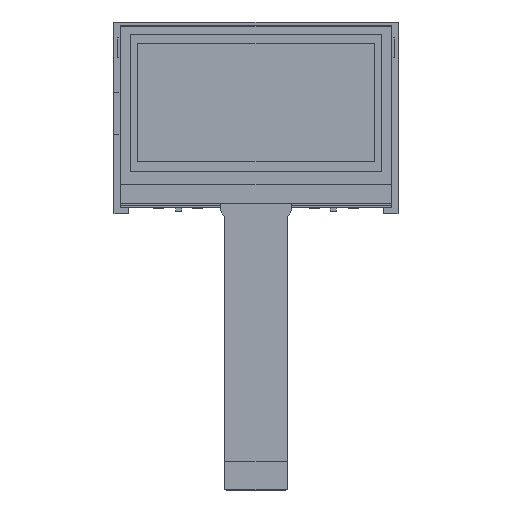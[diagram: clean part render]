
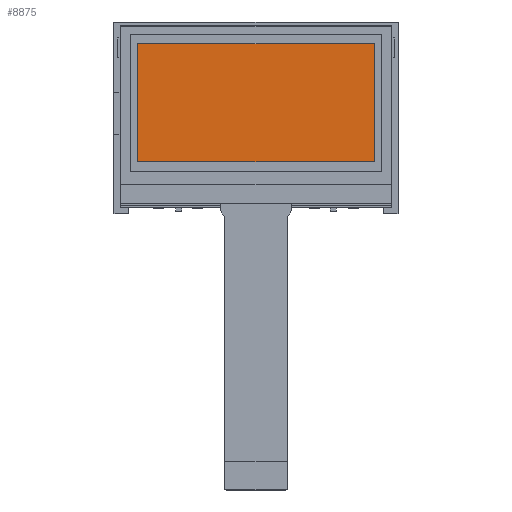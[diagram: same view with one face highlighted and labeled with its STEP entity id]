
A CAD part, top view. The second image highlights one B-rep face of the part: STEP entity #8875.
In plain terms, the highlighted planar face has unit normal (0, 0, 1).
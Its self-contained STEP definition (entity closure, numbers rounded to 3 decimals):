
#505 = CARTESIAN_POINT ( 'NONE',  ( 0., -12.42, 6.5 ) ) ;
#878 = LINE ( 'NONE', #12382, #7632 ) ;
#1144 = DIRECTION ( 'NONE',  ( 0., 1., 0. ) ) ;
#1165 = EDGE_CURVE ( 'NONE', #9413, #5884, #10555, .T. ) ;
#1262 = LINE ( 'NONE', #505, #6985 ) ;
#1661 = ORIENTED_EDGE ( 'NONE', *, *, #1165, .F. ) ;
#1705 = DIRECTION ( 'NONE',  ( 1., 0., 0. ) ) ;
#2548 = ORIENTED_EDGE ( 'NONE', *, *, #9334, .F. ) ;
#2642 = CARTESIAN_POINT ( 'NONE',  ( 33.26, -12.42, 6.5 ) ) ;
#3425 = ORIENTED_EDGE ( 'NONE', *, *, #8743, .F. ) ;
#3509 = ORIENTED_EDGE ( 'NONE', *, *, #10779, .F. ) ;
#4343 = LINE ( 'NONE', #10906, #7599 ) ;
#5344 = CARTESIAN_POINT ( 'NONE',  ( 33.26, 20.82, 6.5 ) ) ;
#5527 = CARTESIAN_POINT ( 'NONE',  ( -33.26, -12.42, 6.5 ) ) ;
#5884 = VERTEX_POINT ( 'NONE', #7999 ) ;
#6567 = AXIS2_PLACEMENT_3D ( 'NONE', #10472, #11236, #1705 ) ;
#6635 = PLANE ( 'NONE',  #6567 ) ;
#6754 = VERTEX_POINT ( 'NONE', #5344 ) ;
#6985 = VECTOR ( 'NONE', #7220, 1000. ) ;
#7220 = DIRECTION ( 'NONE',  ( -1., 0., 0. ) ) ;
#7464 = FACE_OUTER_BOUND ( 'NONE', #9664, .T. ) ;
#7599 = VECTOR ( 'NONE', #9130, 1000. ) ;
#7632 = VECTOR ( 'NONE', #12326, 1000. ) ;
#7999 = CARTESIAN_POINT ( 'NONE',  ( -33.26, 20.82, 6.5 ) ) ;
#8743 = EDGE_CURVE ( 'NONE', #9194, #9413, #1262, .T. ) ;
#8875 = ADVANCED_FACE ( 'NONE', ( #7464 ), #6635, .T. ) ;
#9130 = DIRECTION ( 'NONE',  ( 1., 0., 0. ) ) ;
#9194 = VERTEX_POINT ( 'NONE', #2642 ) ;
#9334 = EDGE_CURVE ( 'NONE', #5884, #6754, #4343, .T. ) ;
#9413 = VERTEX_POINT ( 'NONE', #5527 ) ;
#9595 = CARTESIAN_POINT ( 'NONE',  ( -33.26, 0., 6.5 ) ) ;
#9664 = EDGE_LOOP ( 'NONE', ( #1661, #3425, #3509, #2548 ) ) ;
#10472 = CARTESIAN_POINT ( 'NONE',  ( 0., 0., 6.5 ) ) ;
#10555 = LINE ( 'NONE', #9595, #11993 ) ;
#10779 = EDGE_CURVE ( 'NONE', #6754, #9194, #878, .T. ) ;
#10906 = CARTESIAN_POINT ( 'NONE',  ( 0., 20.82, 6.5 ) ) ;
#11236 = DIRECTION ( 'NONE',  ( 0., 0., 1. ) ) ;
#11993 = VECTOR ( 'NONE', #1144, 1000. ) ;
#12326 = DIRECTION ( 'NONE',  ( 0., -1., 0. ) ) ;
#12382 = CARTESIAN_POINT ( 'NONE',  ( 33.26, 0., 6.5 ) ) ;
